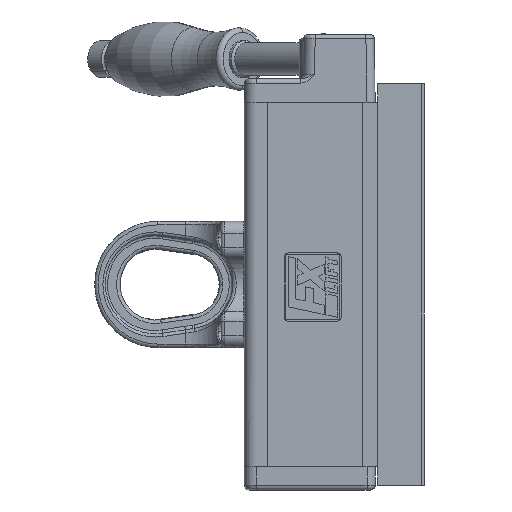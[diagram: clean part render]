
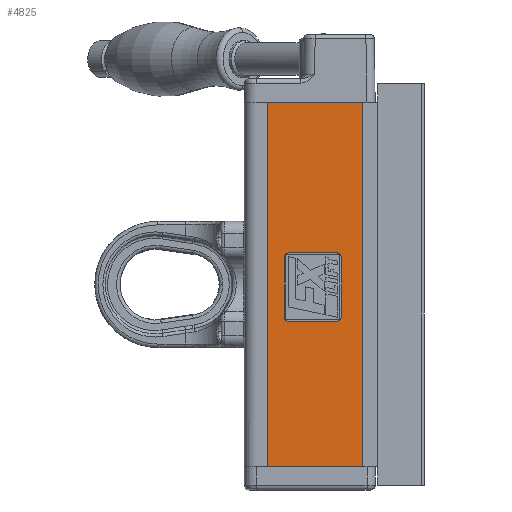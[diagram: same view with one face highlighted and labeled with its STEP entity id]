
A CAD part, left-side view. The second image highlights one B-rep face of the part: STEP entity #4825.
In plain terms, the highlighted planar face has unit normal (-1, 0, 0).
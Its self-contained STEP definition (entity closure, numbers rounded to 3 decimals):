
#62 = VECTOR ( 'NONE', #45764, 1000. ) ;
#88 = EDGE_CURVE ( 'NONE', #36172, #25212, #11227, .T. ) ;
#183 = CARTESIAN_POINT ( 'NONE',  ( -30.5, -8.404, -14.059 ) ) ;
#2850 = CARTESIAN_POINT ( 'NONE',  ( -30.5, 23., 78. ) ) ;
#3995 = CARTESIAN_POINT ( 'NONE',  ( -30.5, -6.785, -15.678 ) ) ;
#4825 = ADVANCED_FACE ( 'NONE', ( #9920, #19694 ), #39666, .F. ) ;
#5180 = CARTESIAN_POINT ( 'NONE',  ( -30.5, -6.785, 13.468 ) ) ;
#5420 = LINE ( 'NONE', #18821, #25033 ) ;
#6554 = DIRECTION ( 'NONE',  ( 0., -1., 0. ) ) ;
#7691 = B_SPLINE_CURVE_WITH_KNOTS ( 'NONE', 3,
 ( #183, #22370, #26047, #3995 ),
 .UNSPECIFIED., .F., .F.,
 ( 4, 4 ),
 ( 0.556, 0.667 ),
 .UNSPECIFIED. ) ;
#8334 = EDGE_CURVE ( 'NONE', #39156, #17481, #18043, .T. ) ;
#8370 = EDGE_LOOP ( 'NONE', ( #27262, #17884, #43018, #27432, #38042, #42982, #16913, #31180 ) ) ;
#8439 = ORIENTED_EDGE ( 'NONE', *, *, #22192, .T. ) ;
#8781 = CARTESIAN_POINT ( 'NONE',  ( -30.5, -8.404, -14.059 ) ) ;
#9920 = FACE_OUTER_BOUND ( 'NONE', #28712, .T. ) ;
#10303 = CARTESIAN_POINT ( 'NONE',  ( -30.5, 0., -15.678 ) ) ;
#11091 = CARTESIAN_POINT ( 'NONE',  ( -30.5, -18.5, 78. ) ) ;
#11227 = B_SPLINE_CURVE_WITH_KNOTS ( 'NONE', 3,
 ( #31198, #31342, #31043, #30864 ),
 .UNSPECIFIED., .F., .F.,
 ( 4, 4 ),
 ( 0.778, 1. ),
 .UNSPECIFIED. ) ;
#11433 = CARTESIAN_POINT ( 'NONE',  ( -30.5, 23., -78. ) ) ;
#11926 = CARTESIAN_POINT ( 'NONE',  ( -30.5, 15.885, 12.739 ) ) ;
#12066 = VERTEX_POINT ( 'NONE', #19915 ) ;
#12069 = CARTESIAN_POINT ( 'NONE',  ( -30.5, 15.885, -14.059 ) ) ;
#12296 = CARTESIAN_POINT ( 'NONE',  ( -30.5, 14.266, 13.468 ) ) ;
#12438 = CARTESIAN_POINT ( 'NONE',  ( -30.5, -8.404, 0. ) ) ;
#12771 = VERTEX_POINT ( 'NONE', #8781 ) ;
#13363 = CARTESIAN_POINT ( 'NONE',  ( -30.5, 14.266, -15.678 ) ) ;
#14641 = VERTEX_POINT ( 'NONE', #24038 ) ;
#15173 = CARTESIAN_POINT ( 'NONE',  ( -30.5, 23., -78. ) ) ;
#16610 = CARTESIAN_POINT ( 'NONE',  ( -30.5, -6.785, 13.468 ) ) ;
#16774 = DIRECTION ( 'NONE',  ( 0., 0., 1. ) ) ;
#16854 = CARTESIAN_POINT ( 'NONE',  ( -30.5, -18.5, -78. ) ) ;
#16912 = VECTOR ( 'NONE', #16774, 1000. ) ;
#16913 = ORIENTED_EDGE ( 'NONE', *, *, #38196, .T. ) ;
#16936 = EDGE_CURVE ( 'NONE', #12066, #17206, #40832, .T. ) ;
#17206 = VERTEX_POINT ( 'NONE', #12296 ) ;
#17481 = VERTEX_POINT ( 'NONE', #44896 ) ;
#17528 = DIRECTION ( 'NONE',  ( 1., 0., 0. ) ) ;
#17884 = ORIENTED_EDGE ( 'NONE', *, *, #39170, .T. ) ;
#18043 = B_SPLINE_CURVE_WITH_KNOTS ( 'NONE', 3,
 ( #5180, #19815, #26917, #30977 ),
 .UNSPECIFIED., .F., .F.,
 ( 4, 4 ),
 ( 0.333, 0.444 ),
 .UNSPECIFIED. ) ;
#18821 = CARTESIAN_POINT ( 'NONE',  ( -30.5, 0., 13.468 ) ) ;
#18840 = LINE ( 'NONE', #2850, #47195 ) ;
#19116 = EDGE_CURVE ( 'NONE', #14641, #36172, #32449, .T. ) ;
#19312 = CARTESIAN_POINT ( 'NONE',  ( -30.5, 14.266, 13.468 ) ) ;
#19694 = FACE_BOUND ( 'NONE', #8370, .T. ) ;
#19815 = CARTESIAN_POINT ( 'NONE',  ( -30.5, -7.675, 13.468 ) ) ;
#19915 = CARTESIAN_POINT ( 'NONE',  ( -30.5, 15.885, 11.849 ) ) ;
#20115 = ORIENTED_EDGE ( 'NONE', *, *, #21122, .F. ) ;
#21122 = EDGE_CURVE ( 'NONE', #24136, #29077, #31228, .T. ) ;
#21993 = EDGE_CURVE ( 'NONE', #41335, #29077, #35214, .T. ) ;
#22192 = EDGE_CURVE ( 'NONE', #27375, #41335, #30576, .T. ) ;
#22370 = CARTESIAN_POINT ( 'NONE',  ( -30.5, -8.404, -14.95 ) ) ;
#22607 = VECTOR ( 'NONE', #39850, 1000. ) ;
#22706 = VECTOR ( 'NONE', #27104, 1000. ) ;
#24038 = CARTESIAN_POINT ( 'NONE',  ( -30.5, -6.785, -15.678 ) ) ;
#24136 = VERTEX_POINT ( 'NONE', #25229 ) ;
#25033 = VECTOR ( 'NONE', #44683, 1000. ) ;
#25212 = VERTEX_POINT ( 'NONE', #12069 ) ;
#25229 = CARTESIAN_POINT ( 'NONE',  ( -30.5, -18.5, 78. ) ) ;
#26047 = CARTESIAN_POINT ( 'NONE',  ( -30.5, -7.675, -15.678 ) ) ;
#26530 = VECTOR ( 'NONE', #44522, 1000. ) ;
#26707 = LINE ( 'NONE', #35191, #16912 ) ;
#26917 = CARTESIAN_POINT ( 'NONE',  ( -30.5, -8.404, 12.739 ) ) ;
#27104 = DIRECTION ( 'NONE',  ( 0., 0., -1. ) ) ;
#27262 = ORIENTED_EDGE ( 'NONE', *, *, #88, .T. ) ;
#27375 = VERTEX_POINT ( 'NONE', #46759 ) ;
#27432 = ORIENTED_EDGE ( 'NONE', *, *, #33011, .T. ) ;
#28712 = EDGE_LOOP ( 'NONE', ( #32703, #20115, #47309, #8439 ) ) ;
#29077 = VERTEX_POINT ( 'NONE', #16854 ) ;
#30073 = VECTOR ( 'NONE', #36913, 1000. ) ;
#30576 = LINE ( 'NONE', #42069, #62 ) ;
#30864 = CARTESIAN_POINT ( 'NONE',  ( -30.5, 15.885, -14.059 ) ) ;
#30977 = CARTESIAN_POINT ( 'NONE',  ( -30.5, -8.404, 11.849 ) ) ;
#31043 = CARTESIAN_POINT ( 'NONE',  ( -30.5, 15.885, -14.95 ) ) ;
#31180 = ORIENTED_EDGE ( 'NONE', *, *, #19116, .T. ) ;
#31198 = CARTESIAN_POINT ( 'NONE',  ( -30.5, 14.266, -15.678 ) ) ;
#31228 = LINE ( 'NONE', #11091, #30073 ) ;
#31342 = CARTESIAN_POINT ( 'NONE',  ( -30.5, 15.156, -15.678 ) ) ;
#32449 = LINE ( 'NONE', #10303, #22607 ) ;
#32703 = ORIENTED_EDGE ( 'NONE', *, *, #21993, .T. ) ;
#33011 = EDGE_CURVE ( 'NONE', #17206, #39156, #5420, .T. ) ;
#35191 = CARTESIAN_POINT ( 'NONE',  ( -30.5, 15.885, 0. ) ) ;
#35214 = LINE ( 'NONE', #11433, #26530 ) ;
#36172 = VERTEX_POINT ( 'NONE', #13363 ) ;
#36913 = DIRECTION ( 'NONE',  ( 0., 0., -1. ) ) ;
#37737 = CARTESIAN_POINT ( 'NONE',  ( -30.5, 15.885, 11.849 ) ) ;
#38042 = ORIENTED_EDGE ( 'NONE', *, *, #8334, .T. ) ;
#38196 = EDGE_CURVE ( 'NONE', #12771, #14641, #7691, .T. ) ;
#38994 = EDGE_CURVE ( 'NONE', #17481, #12771, #41215, .T. ) ;
#39156 = VERTEX_POINT ( 'NONE', #16610 ) ;
#39170 = EDGE_CURVE ( 'NONE', #25212, #12066, #26707, .T. ) ;
#39666 = PLANE ( 'NONE',  #40110 ) ;
#39850 = DIRECTION ( 'NONE',  ( 0., 1., 0. ) ) ;
#40110 = AXIS2_PLACEMENT_3D ( 'NONE', #46445, #17528, #43375 ) ;
#40832 = B_SPLINE_CURVE_WITH_KNOTS ( 'NONE', 3,
 ( #37737, #11926, #41470, #19312 ),
 .UNSPECIFIED., .F., .F.,
 ( 4, 4 ),
 ( 0.111, 0.222 ),
 .UNSPECIFIED. ) ;
#41215 = LINE ( 'NONE', #12438, #22706 ) ;
#41335 = VERTEX_POINT ( 'NONE', #15173 ) ;
#41470 = CARTESIAN_POINT ( 'NONE',  ( -30.5, 15.156, 13.468 ) ) ;
#42069 = CARTESIAN_POINT ( 'NONE',  ( -30.5, 23., 78. ) ) ;
#42982 = ORIENTED_EDGE ( 'NONE', *, *, #38994, .T. ) ;
#43018 = ORIENTED_EDGE ( 'NONE', *, *, #16936, .T. ) ;
#43375 = DIRECTION ( 'NONE',  ( 0., 1., 0. ) ) ;
#44522 = DIRECTION ( 'NONE',  ( 0., -1., 0. ) ) ;
#44683 = DIRECTION ( 'NONE',  ( 0., -1., 0. ) ) ;
#44896 = CARTESIAN_POINT ( 'NONE',  ( -30.5, -8.404, 11.849 ) ) ;
#45764 = DIRECTION ( 'NONE',  ( 0., 0., -1. ) ) ;
#46445 = CARTESIAN_POINT ( 'NONE',  ( -30.5, 23., 78. ) ) ;
#46759 = CARTESIAN_POINT ( 'NONE',  ( -30.5, 23., 78. ) ) ;
#46917 = EDGE_CURVE ( 'NONE', #27375, #24136, #18840, .T. ) ;
#47195 = VECTOR ( 'NONE', #6554, 1000. ) ;
#47309 = ORIENTED_EDGE ( 'NONE', *, *, #46917, .F. ) ;
